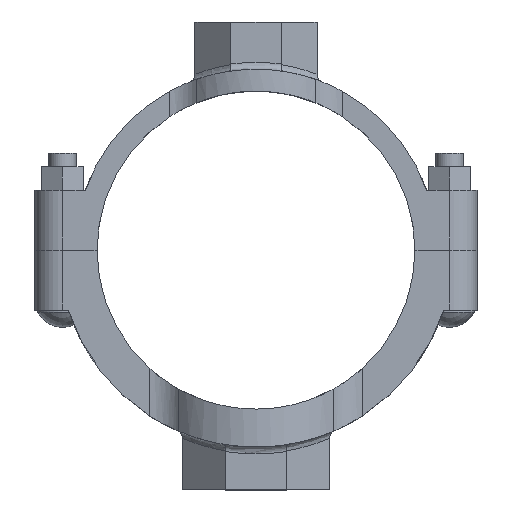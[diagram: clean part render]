
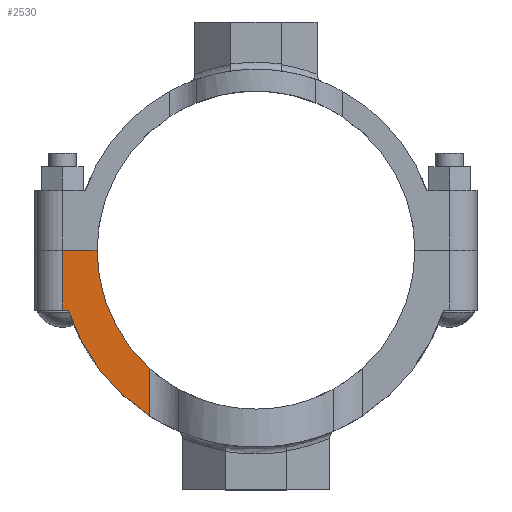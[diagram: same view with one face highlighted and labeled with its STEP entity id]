
A CAD part, top view. The second image highlights one B-rep face of the part: STEP entity #2530.
In plain terms, the highlighted planar face has unit normal (0, 0, 1).
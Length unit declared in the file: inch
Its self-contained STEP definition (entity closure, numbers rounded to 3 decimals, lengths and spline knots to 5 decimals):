
#298=FACE_OUTER_BOUND('',#449,.T.);
#449=EDGE_LOOP('',(#2098,#2099,#2100,#2101,#2102,#2103));
#613=LINE('',#4888,#799);
#632=LINE('',#5121,#818);
#633=LINE('',#5122,#819);
#634=LINE('',#5123,#820);
#799=VECTOR('',#3337,0.3937);
#818=VECTOR('',#3408,0.3937);
#819=VECTOR('',#3409,0.3937);
#820=VECTOR('',#3410,0.3937);
#905=CIRCLE('',#2776,5.34);
#927=CIRCLE('',#2814,4.3125);
#1108=VERTEX_POINT('',#4754);
#1109=VERTEX_POINT('',#4767);
#1128=VERTEX_POINT('',#4887);
#1152=VERTEX_POINT('',#5063);
#1153=VERTEX_POINT('',#5065);
#1158=VERTEX_POINT('',#5120);
#1422=EDGE_CURVE('',#1109,#1108,#905,.T.);
#1446=EDGE_CURVE('',#1128,#1109,#613,.T.);
#1480=EDGE_CURVE('',#1153,#1152,#927,.T.);
#1486=EDGE_CURVE('',#1152,#1158,#632,.T.);
#1487=EDGE_CURVE('',#1158,#1128,#633,.T.);
#1488=EDGE_CURVE('',#1153,#1108,#634,.T.);
#2098=ORIENTED_EDGE('',*,*,#1480,.T.);
#2099=ORIENTED_EDGE('',*,*,#1486,.T.);
#2100=ORIENTED_EDGE('',*,*,#1487,.T.);
#2101=ORIENTED_EDGE('',*,*,#1446,.T.);
#2102=ORIENTED_EDGE('',*,*,#1422,.T.);
#2103=ORIENTED_EDGE('',*,*,#1488,.F.);
#2274=PLANE('',#2816);
#2530=ADVANCED_FACE('',(#298),#2274,.T.);
#2776=AXIS2_PLACEMENT_3D('',#4768,#3297,#3298);
#2814=AXIS2_PLACEMENT_3D('',#5066,#3401,#3402);
#2816=AXIS2_PLACEMENT_3D('',#5119,#3406,#3407);
#3297=DIRECTION('center_axis',(0.,0.,1.));
#3298=DIRECTION('ref_axis',(0.953,0.304,0.));
#3337=DIRECTION('',(-1.,0.,0.));
#3401=DIRECTION('center_axis',(0.,0.,-1.));
#3402=DIRECTION('ref_axis',(-1.,0.,0.));
#3406=DIRECTION('center_axis',(0.,0.,1.));
#3407=DIRECTION('ref_axis',(1.,0.,0.));
#3408=DIRECTION('',(1.,0.,0.));
#3409=DIRECTION('',(0.,1.,0.));
#3410=DIRECTION('',(0.,1.,0.));
#4754=CARTESIAN_POINT('',(2.88037,4.49656,1.25));
#4767=CARTESIAN_POINT('',(5.08675,1.625,1.25));
#4768=CARTESIAN_POINT('Origin',(0.,0.,1.25));
#4887=CARTESIAN_POINT('',(5.25,1.625,1.25));
#4888=CARTESIAN_POINT('',(3.98356,1.625,1.25));
#5063=CARTESIAN_POINT('',(4.3125,0.,1.25));
#5065=CARTESIAN_POINT('',(2.88037,3.20954,1.25));
#5066=CARTESIAN_POINT('Origin',(0.,0.,1.25));
#5119=CARTESIAN_POINT('Origin',(2.88037,0.,1.25));
#5120=CARTESIAN_POINT('',(5.25,0.,1.25));
#5121=CARTESIAN_POINT('',(2.88037,0.,1.25));
#5122=CARTESIAN_POINT('',(5.25,0.,1.25));
#5123=CARTESIAN_POINT('',(2.88037,0.,1.25));
